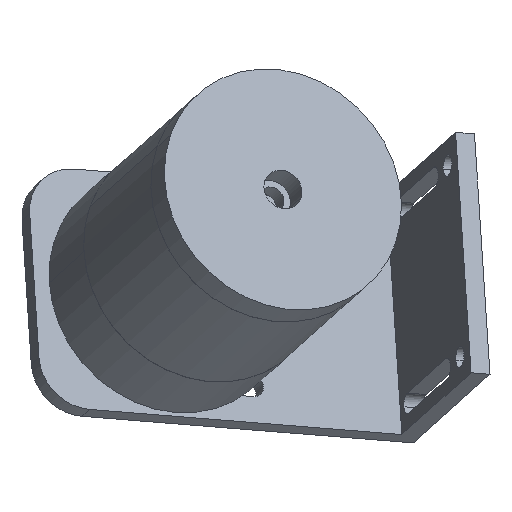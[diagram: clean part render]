
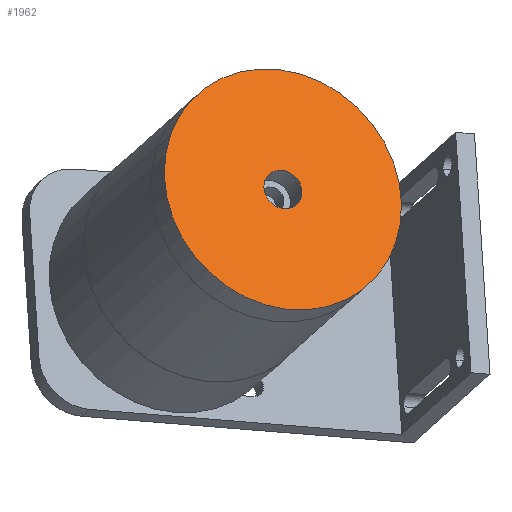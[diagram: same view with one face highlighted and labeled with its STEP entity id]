
A CAD part, top view. The second image highlights one B-rep face of the part: STEP entity #1962.
In plain terms, the highlighted planar face has unit normal (0.375, 0.334, 0.865) as drawn and (-1, 0, 0) by its records, which use the part's own axes.
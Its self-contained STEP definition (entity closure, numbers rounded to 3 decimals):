
#21 = AXIS2_PLACEMENT_3D ( 'NONE', #1303, #3006, #6860 ) ;
#169 = CARTESIAN_POINT ( 'NONE',  ( -45.749, 18.211, -25. ) ) ;
#174 = ORIENTED_EDGE ( 'NONE', *, *, #6640, .T. ) ;
#259 = EDGE_CURVE ( 'NONE', #5507, #3008, #3778, .T. ) ;
#603 = CARTESIAN_POINT ( 'NONE',  ( -45.749, 18.211, -4. ) ) ;
#802 = AXIS2_PLACEMENT_3D ( 'NONE', #2628, #6503, #2035 ) ;
#1112 = PLANE ( 'NONE',  #2669 ) ;
#1260 = FACE_OUTER_BOUND ( 'NONE', #2244, .T. ) ;
#1303 = CARTESIAN_POINT ( 'NONE',  ( -45.749, 18.211, 0. ) ) ;
#1431 = VERTEX_POINT ( 'NONE', #169 ) ;
#1800 = VERTEX_POINT ( 'NONE', #2113 ) ;
#1825 = CARTESIAN_POINT ( 'NONE',  ( -45.749, 43.211, 0. ) ) ;
#1918 = DIRECTION ( 'NONE',  ( -1., 0., 0. ) ) ;
#1962 = ADVANCED_FACE ( 'NONE', ( #3418, #1260 ), #1112, .F. ) ;
#2035 = DIRECTION ( 'NONE',  ( 0., 0., 1. ) ) ;
#2113 = CARTESIAN_POINT ( 'NONE',  ( -45.749, 18.211, 25. ) ) ;
#2146 = EDGE_CURVE ( 'NONE', #1431, #1800, #2272, .T. ) ;
#2159 = AXIS2_PLACEMENT_3D ( 'NONE', #6997, #1918, #5293 ) ;
#2214 = CIRCLE ( 'NONE', #21, 25. ) ;
#2244 = EDGE_LOOP ( 'NONE', ( #174, #6555 ) ) ;
#2272 = CIRCLE ( 'NONE', #802, 25. ) ;
#2606 = ORIENTED_EDGE ( 'NONE', *, *, #5612, .F. ) ;
#2628 = CARTESIAN_POINT ( 'NONE',  ( -45.749, 18.211, 0. ) ) ;
#2669 = AXIS2_PLACEMENT_3D ( 'NONE', #1825, #6216, #3447 ) ;
#3006 = DIRECTION ( 'NONE',  ( -1., 0., 0. ) ) ;
#3008 = VERTEX_POINT ( 'NONE', #603 ) ;
#3418 = FACE_BOUND ( 'NONE', #4562, .T. ) ;
#3447 = DIRECTION ( 'NONE',  ( 0., 0., -1. ) ) ;
#3778 = CIRCLE ( 'NONE', #2159, 4. ) ;
#4327 = CIRCLE ( 'NONE', #4530, 4. ) ;
#4401 = ORIENTED_EDGE ( 'NONE', *, *, #259, .F. ) ;
#4530 = AXIS2_PLACEMENT_3D ( 'NONE', #5299, #5842, #4807 ) ;
#4562 = EDGE_LOOP ( 'NONE', ( #4401, #2606 ) ) ;
#4807 = DIRECTION ( 'NONE',  ( 0., 0., 1. ) ) ;
#5176 = CARTESIAN_POINT ( 'NONE',  ( -45.749, 18.211, 4. ) ) ;
#5293 = DIRECTION ( 'NONE',  ( 0., 0., 1. ) ) ;
#5299 = CARTESIAN_POINT ( 'NONE',  ( -45.749, 18.211, 0. ) ) ;
#5507 = VERTEX_POINT ( 'NONE', #5176 ) ;
#5612 = EDGE_CURVE ( 'NONE', #3008, #5507, #4327, .T. ) ;
#5842 = DIRECTION ( 'NONE',  ( -1., 0., 0. ) ) ;
#6216 = DIRECTION ( 'NONE',  ( 1., 0., 0. ) ) ;
#6503 = DIRECTION ( 'NONE',  ( -1., 0., 0. ) ) ;
#6555 = ORIENTED_EDGE ( 'NONE', *, *, #2146, .T. ) ;
#6640 = EDGE_CURVE ( 'NONE', #1800, #1431, #2214, .T. ) ;
#6860 = DIRECTION ( 'NONE',  ( 0., 0., 1. ) ) ;
#6997 = CARTESIAN_POINT ( 'NONE',  ( -45.749, 18.211, 0. ) ) ;
